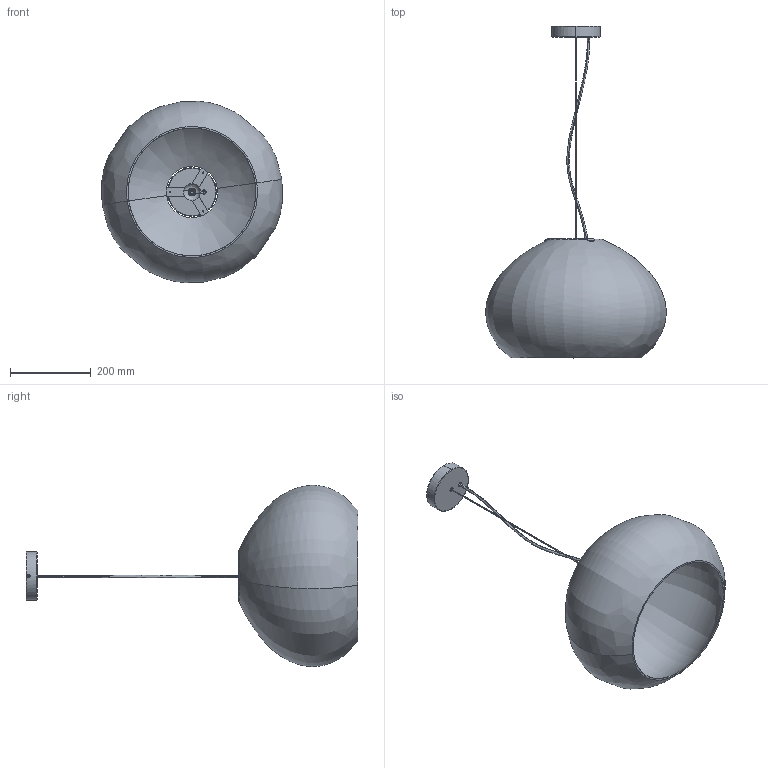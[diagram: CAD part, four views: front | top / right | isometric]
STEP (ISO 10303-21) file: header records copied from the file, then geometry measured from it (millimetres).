
FILE_DESCRIPTION(/* description */ (''),/* implementation_level */ '2;1');
FILE_NAME(/* name */ '20404.step',/* time_stamp */ '2024-03-25T16:37:26+01:00',/* author */ ('RenataManzini'),/* organization */ (''),/* preprocessor_version */ 'ST-DEVELOPER v20',/* originating_system */ 'AutoCAD Mechanical',/* authorisation */ '');
FILE_SCHEMA (('AUTOMOTIVE_DESIGN { 1 0 10303 214 3 1 1 }'));
Length unit declared in the file: millimetre
Products named in the file (9): Product; 20403CAS; CUBRE PORTALAMPARAS E27; 20405TC; 20400FL; 20400ES; CABLE ACERO 2M; CABLE TEXTIL 2M NG 2X0.75; 20404-PANTALLA MAR H290 PRODUCCION
Assembly tree (8 placements, depth 2):
  Product
    20403CAS
    CUBRE PORTALAMPARAS E27
    20405TC
    20400FL
    20400ES
    CABLE ACERO 2M
    CABLE TEXTIL 2M NG 2X0.75
    20404-PANTALLA MAR H290 PRODUCCION
Bounding box: 448.49 x 823.27 x 449.67 mm (x, y, z)
Volume: 1349757.4 mm3; surface area: 960696.6 mm2
Topology: 8 solids, 8 shells, 170 faces, 427 edges, 278 vertices
Faces by surface type: cylinder 71, plane 60, cone 26, bspline 11, torus 2
Entity records: 12537 total; most frequent: CARTESIAN_POINT 8161, DIRECTION 928, ORIENTED_EDGE 854, EDGE_CURVE 427, AXIS2_PLACEMENT_3D 365, VERTEX_POINT 278, EDGE_LOOP 205, LINE 198
